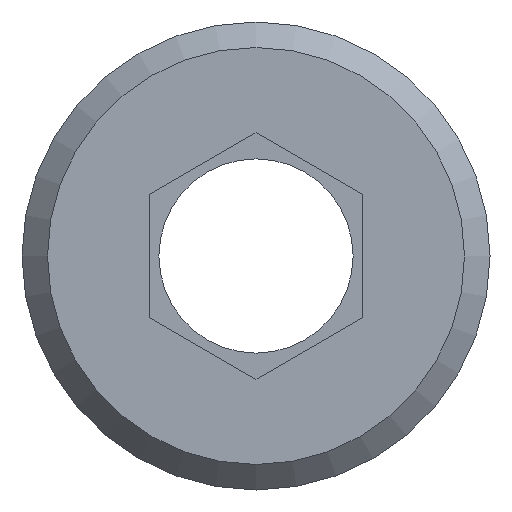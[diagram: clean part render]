
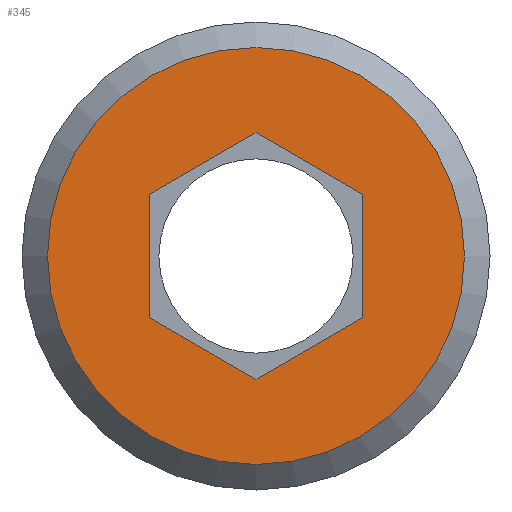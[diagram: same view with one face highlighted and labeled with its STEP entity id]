
A CAD part, front view. The second image highlights one B-rep face of the part: STEP entity #345.
In plain terms, the highlighted planar face has unit normal (0, -1, 0).
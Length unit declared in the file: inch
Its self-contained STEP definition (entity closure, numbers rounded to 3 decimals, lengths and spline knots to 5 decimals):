
#19=FACE_BOUND('',#87,.T.);
#39=CIRCLE('',#390,0.365);
#65=FACE_OUTER_BOUND('',#86,.T.);
#86=EDGE_LOOP('',(#285));
#87=EDGE_LOOP('',(#286,#287,#288,#289,#290,#291));
#95=LINE('',#524,#119);
#99=LINE('',#532,#123);
#102=LINE('',#538,#126);
#105=LINE('',#544,#129);
#108=LINE('',#550,#132);
#111=LINE('',#555,#135);
#119=VECTOR('',#412,0.3937);
#123=VECTOR('',#418,0.3937);
#126=VECTOR('',#423,0.3937);
#129=VECTOR('',#428,0.3937);
#132=VECTOR('',#433,0.3937);
#135=VECTOR('',#438,0.3937);
#143=VERTEX_POINT('',#522);
#144=VERTEX_POINT('',#523);
#147=VERTEX_POINT('',#531);
#149=VERTEX_POINT('',#537);
#151=VERTEX_POINT('',#543);
#153=VERTEX_POINT('',#549);
#166=VERTEX_POINT('',#588);
#177=EDGE_CURVE('',#143,#144,#95,.T.);
#181=EDGE_CURVE('',#147,#143,#99,.T.);
#184=EDGE_CURVE('',#149,#147,#102,.T.);
#187=EDGE_CURVE('',#151,#149,#105,.T.);
#190=EDGE_CURVE('',#153,#151,#108,.T.);
#193=EDGE_CURVE('',#144,#153,#111,.T.);
#209=EDGE_CURVE('',#166,#166,#39,.T.);
#285=ORIENTED_EDGE('',*,*,#209,.F.);
#286=ORIENTED_EDGE('',*,*,#190,.T.);
#287=ORIENTED_EDGE('',*,*,#187,.T.);
#288=ORIENTED_EDGE('',*,*,#184,.T.);
#289=ORIENTED_EDGE('',*,*,#181,.T.);
#290=ORIENTED_EDGE('',*,*,#177,.T.);
#291=ORIENTED_EDGE('',*,*,#193,.T.);
#329=PLANE('',#396);
#345=ADVANCED_FACE('',(#65,#19),#329,.T.);
#390=AXIS2_PLACEMENT_3D('',#589,#479,#480);
#396=AXIS2_PLACEMENT_3D('',#601,#493,#494);
#412=DIRECTION('',(-0.866,0.,-0.5));
#418=DIRECTION('',(0.,0.,-1.));
#423=DIRECTION('',(0.866,0.,-0.5));
#428=DIRECTION('',(0.866,0.,0.5));
#433=DIRECTION('',(0.,0.,1.));
#438=DIRECTION('',(-0.866,0.,0.5));
#479=DIRECTION('center_axis',(0.,1.,0.));
#480=DIRECTION('ref_axis',(0.,0.,1.));
#493=DIRECTION('center_axis',(0.,-1.,0.));
#494=DIRECTION('ref_axis',(0.,0.,-1.));
#522=CARTESIAN_POINT('',(0.187,0.,-0.10796));
#523=CARTESIAN_POINT('',(0.,0.,-0.21593));
#524=CARTESIAN_POINT('',(0.09976,0.,-0.15833));
#531=CARTESIAN_POINT('',(0.187,0.,0.10796));
#532=CARTESIAN_POINT('',(0.187,0.,-0.03952));
#537=CARTESIAN_POINT('',(0.,0.,0.21593));
#538=CARTESIAN_POINT('',(0.08724,0.,0.16556));
#543=CARTESIAN_POINT('',(-0.187,0.,0.10796));
#544=CARTESIAN_POINT('',(-0.18074,0.,0.11158));
#549=CARTESIAN_POINT('',(-0.187,0.,-0.10796));
#550=CARTESIAN_POINT('',(-0.187,0.,-0.14748));
#555=CARTESIAN_POINT('',(-0.00626,0.,-0.21231));
#588=CARTESIAN_POINT('',(0.,0.,-0.365));
#589=CARTESIAN_POINT('Origin',(0.,0.,0.));
#601=CARTESIAN_POINT('Origin',(0.,0.,-0.187));
